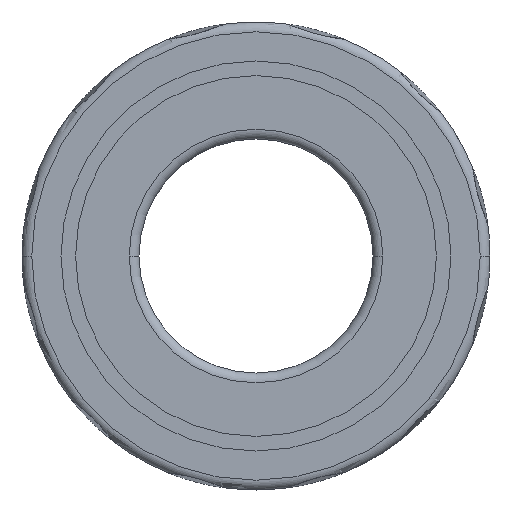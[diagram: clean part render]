
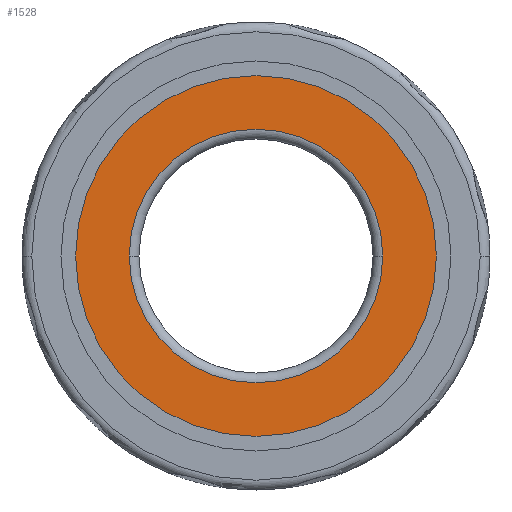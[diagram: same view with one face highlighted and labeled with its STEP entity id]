
A CAD part, front view. The second image highlights one B-rep face of the part: STEP entity #1528.
In plain terms, the highlighted planar face has unit normal (0, -1, 0).
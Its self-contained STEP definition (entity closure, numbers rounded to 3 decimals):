
#16 = CARTESIAN_POINT ( 'NONE',  ( 16160.863, 2691.216, 0. ) ) ;
#83 = DIRECTION ( 'NONE',  ( 0., -1., 0. ) ) ;
#382 = CARTESIAN_POINT ( 'NONE',  ( 16154.363, 2691.216, 0. ) ) ;
#426 = VERTEX_POINT ( 'NONE', #382 ) ;
#454 = FACE_OUTER_BOUND ( 'NONE', #7038, .T. ) ;
#638 = AXIS2_PLACEMENT_3D ( 'NONE', #6150, #3899, #5602 ) ;
#960 = ORIENTED_EDGE ( 'NONE', *, *, #3182, .F. ) ;
#1267 = DIRECTION ( 'NONE',  ( 1., 0., 0. ) ) ;
#1340 = ORIENTED_EDGE ( 'NONE', *, *, #3338, .T. ) ;
#1528 = ADVANCED_FACE ( 'NONE', ( #1667, #454 ), #1844, .F. ) ;
#1636 = EDGE_CURVE ( 'NONE', #3410, #5569, #6546, .T. ) ;
#1667 = FACE_BOUND ( 'NONE', #1997, .T. ) ;
#1822 = CIRCLE ( 'NONE', #2741, 6.5 ) ;
#1844 = PLANE ( 'NONE',  #638 ) ;
#1908 = AXIS2_PLACEMENT_3D ( 'NONE', #6152, #1916, #1267 ) ;
#1916 = DIRECTION ( 'NONE',  ( 0., -1., 0. ) ) ;
#1997 = EDGE_LOOP ( 'NONE', ( #960, #2708 ) ) ;
#2224 = DIRECTION ( 'NONE',  ( 1., 0., 0. ) ) ;
#2300 = DIRECTION ( 'NONE',  ( 0., -1., 0. ) ) ;
#2464 = DIRECTION ( 'NONE',  ( 1., 0., 0. ) ) ;
#2708 = ORIENTED_EDGE ( 'NONE', *, *, #5226, .F. ) ;
#2741 = AXIS2_PLACEMENT_3D ( 'NONE', #16, #2300, #5001 ) ;
#2897 = VERTEX_POINT ( 'NONE', #6410 ) ;
#3182 = EDGE_CURVE ( 'NONE', #2897, #426, #1822, .T. ) ;
#3338 = EDGE_CURVE ( 'NONE', #5569, #3410, #5656, .T. ) ;
#3410 = VERTEX_POINT ( 'NONE', #4279 ) ;
#3562 = DIRECTION ( 'NONE',  ( 0., -1., 0. ) ) ;
#3581 = CIRCLE ( 'NONE', #6076, 6.5 ) ;
#3899 = DIRECTION ( 'NONE',  ( 0., 1., 0. ) ) ;
#4279 = CARTESIAN_POINT ( 'NONE',  ( 16170.113, 2691.216, 0. ) ) ;
#4595 = ORIENTED_EDGE ( 'NONE', *, *, #1636, .T. ) ;
#5001 = DIRECTION ( 'NONE',  ( 1., 0., 0. ) ) ;
#5226 = EDGE_CURVE ( 'NONE', #426, #2897, #3581, .T. ) ;
#5549 = CARTESIAN_POINT ( 'NONE',  ( 16160.863, 2691.216, 0. ) ) ;
#5569 = VERTEX_POINT ( 'NONE', #6035 ) ;
#5602 = DIRECTION ( 'NONE',  ( -1., 0., 0. ) ) ;
#5656 = CIRCLE ( 'NONE', #1908, 9.25 ) ;
#6035 = CARTESIAN_POINT ( 'NONE',  ( 16151.613, 2691.216, 0. ) ) ;
#6076 = AXIS2_PLACEMENT_3D ( 'NONE', #5549, #83, #2224 ) ;
#6143 = AXIS2_PLACEMENT_3D ( 'NONE', #6820, #3562, #2464 ) ;
#6150 = CARTESIAN_POINT ( 'NONE',  ( 0., 2691.216, 0. ) ) ;
#6152 = CARTESIAN_POINT ( 'NONE',  ( 16160.863, 2691.216, 0. ) ) ;
#6410 = CARTESIAN_POINT ( 'NONE',  ( 16167.363, 2691.216, 0. ) ) ;
#6546 = CIRCLE ( 'NONE', #6143, 9.25 ) ;
#6820 = CARTESIAN_POINT ( 'NONE',  ( 16160.863, 2691.216, 0. ) ) ;
#7038 = EDGE_LOOP ( 'NONE', ( #4595, #1340 ) ) ;
